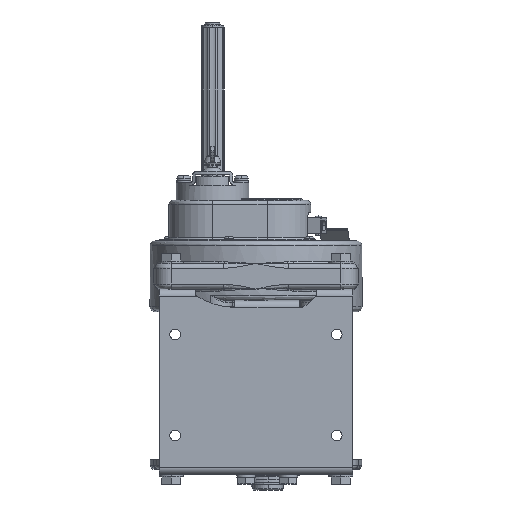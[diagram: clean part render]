
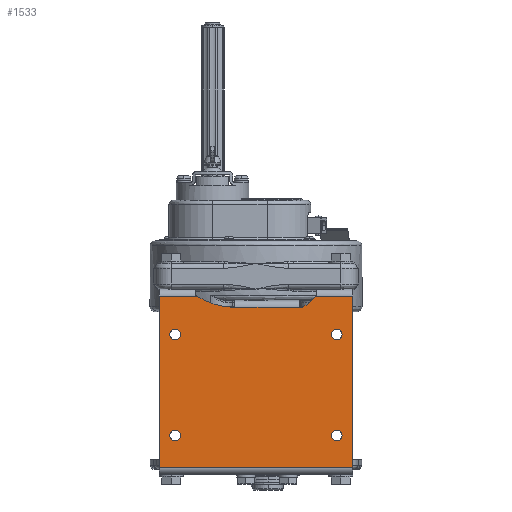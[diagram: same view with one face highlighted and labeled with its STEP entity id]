
A CAD part, front view. The second image highlights one B-rep face of the part: STEP entity #1533.
In plain terms, the highlighted planar face has unit normal (0, -1, 0).
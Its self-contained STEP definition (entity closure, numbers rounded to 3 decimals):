
#1533=ADVANCED_FACE('',(#16987,#16988,#16989,#16990,#16991),#16986,.T.);
#16986=PLANE('',#39127);
#16987=FACE_OUTER_BOUND('',#39128,.T.);
#16988=FACE_BOUND('',#39129,.T.);
#16989=FACE_BOUND('',#39130,.T.);
#16990=FACE_BOUND('',#39131,.T.);
#16991=FACE_BOUND('',#39132,.T.);
#39124=CARTESIAN_POINT('',(-597.56,-36.383,57.106));
#39125=DIRECTION('',(0.,-1.,0.));
#39126=DIRECTION('',(0.,0.,1.));
#39127=AXIS2_PLACEMENT_3D('',#39124,#39125,#39126);
#39128=EDGE_LOOP('',(#55721,#55722,#55723,#55724,#55725,#55726,#55727,#55728,#55729,#55730));
#39129=EDGE_LOOP('',(#55731,#55732));
#39130=EDGE_LOOP('',(#55733,#55734));
#39131=EDGE_LOOP('',(#55735,#55736));
#39132=EDGE_LOOP('',(#55737,#55738));
#55721=ORIENTED_EDGE('',*,*,#65366,.T.);
#55722=ORIENTED_EDGE('',*,*,#65360,.T.);
#55723=ORIENTED_EDGE('',*,*,#65374,.T.);
#55724=ORIENTED_EDGE('',*,*,#62024,.T.);
#55725=ORIENTED_EDGE('',*,*,#65373,.T.);
#55726=ORIENTED_EDGE('',*,*,#65370,.T.);
#55727=ORIENTED_EDGE('',*,*,#65619,.T.);
#55728=ORIENTED_EDGE('',*,*,#65601,.F.);
#55729=ORIENTED_EDGE('',*,*,#65618,.F.);
#55730=ORIENTED_EDGE('',*,*,#65597,.T.);
#55731=ORIENTED_EDGE('',*,*,#65620,.F.);
#55732=ORIENTED_EDGE('',*,*,#65621,.F.);
#55733=ORIENTED_EDGE('',*,*,#65622,.F.);
#55734=ORIENTED_EDGE('',*,*,#65623,.F.);
#55735=ORIENTED_EDGE('',*,*,#65624,.F.);
#55736=ORIENTED_EDGE('',*,*,#65625,.F.);
#55737=ORIENTED_EDGE('',*,*,#65626,.F.);
#55738=ORIENTED_EDGE('',*,*,#65627,.F.);
#62024=EDGE_CURVE('',#72231,#72273,#72280,.T.);
#65360=EDGE_CURVE('',#94600,#94593,#94601,.T.);
#65366=EDGE_CURVE('',#94640,#94600,#94641,.T.);
#65370=EDGE_CURVE('',#94668,#94661,#94669,.T.);
#65373=EDGE_CURVE('',#72273,#94668,#94687,.T.);
#65374=EDGE_CURVE('',#94593,#72231,#94693,.T.);
#65597=EDGE_CURVE('',#96163,#94640,#96164,.T.);
#65601=EDGE_CURVE('',#96182,#96189,#96190,.T.);
#65618=EDGE_CURVE('',#96163,#96182,#96301,.T.);
#65619=EDGE_CURVE('',#94661,#96189,#96307,.T.);
#65620=EDGE_CURVE('',#96313,#96314,#96315,.T.);
#65621=EDGE_CURVE('',#96314,#96313,#96321,.T.);
#65622=EDGE_CURVE('',#96327,#96328,#96329,.T.);
#65623=EDGE_CURVE('',#96328,#96327,#96335,.T.);
#65624=EDGE_CURVE('',#96341,#96342,#96343,.T.);
#65625=EDGE_CURVE('',#96342,#96341,#96349,.T.);
#65626=EDGE_CURVE('',#96355,#96356,#96357,.T.);
#65627=EDGE_CURVE('',#96356,#96355,#96363,.T.);
#72231=VERTEX_POINT('',#113768);
#72273=VERTEX_POINT('',#113807);
#72280=LINE('',#113824,#113825);
#94593=VERTEX_POINT('',#128979);
#94600=VERTEX_POINT('',#128983);
#94601=CIRCLE('',#128987,30.);
#94640=VERTEX_POINT('',#129011);
#94641=LINE('',#129012,#129013);
#94661=VERTEX_POINT('',#129024);
#94668=VERTEX_POINT('',#129029);
#94669=CIRCLE('',#129033,70.);
#94687=CIRCLE('',#129044,2.);
#94693=CIRCLE('',#129048,2.);
#96163=VERTEX_POINT('',#130059);
#96164=LINE('',#130060,#130061);
#96182=VERTEX_POINT('',#130070);
#96189=VERTEX_POINT('',#130075);
#96190=LINE('',#130076,#130077);
#96301=LINE('',#130141,#130142);
#96307=LINE('',#130144,#130145);
#96313=VERTEX_POINT('',#130147);
#96314=VERTEX_POINT('',#130148);
#96315=CIRCLE('',#130152,5.25);
#96321=CIRCLE('',#130156,5.25);
#96327=VERTEX_POINT('',#130157);
#96328=VERTEX_POINT('',#130158);
#96329=CIRCLE('',#130162,5.25);
#96335=CIRCLE('',#130166,5.25);
#96341=VERTEX_POINT('',#130167);
#96342=VERTEX_POINT('',#130168);
#96343=CIRCLE('',#130172,5.25);
#96349=CIRCLE('',#130176,5.25);
#96355=VERTEX_POINT('',#130177);
#96356=VERTEX_POINT('',#130178);
#96357=CIRCLE('',#130182,5.25);
#96363=CIRCLE('',#130186,5.25);
#113768=CARTESIAN_POINT('',(-658.56,-36.383,225.806));
#113807=CARTESIAN_POINT('',(-726.56,-36.383,225.806));
#113824=CARTESIAN_POINT('',(-658.56,-36.383,225.806));
#113825=VECTOR('',#113826,68.);
#113826=DIRECTION('',(-1.,0.,0.));
#128979=CARTESIAN_POINT('',(-657.794,-36.383,225.959));
#128983=CARTESIAN_POINT('',(-644.478,-36.383,236.806));
#128984=CARTESIAN_POINT('',(-669.29,-36.383,253.669));
#128985=DIRECTION('',(0.,1.,0.));
#128986=DIRECTION('',(0.,0.,-1.));
#128987=AXIS2_PLACEMENT_3D('',#128984,#128985,#128986);
#129011=CARTESIAN_POINT('',(-607.56,-36.383,236.806));
#129012=CARTESIAN_POINT('',(-607.56,-36.383,236.806));
#129013=VECTOR('',#129014,36.917);
#129014=DIRECTION('',(-1.,0.,0.));
#129024=CARTESIAN_POINT('',(-762.15,-36.383,236.806));
#129029=CARTESIAN_POINT('',(-726.623,-36.383,225.807));
#129030=CARTESIAN_POINT('',(-724.428,-36.383,295.773));
#129031=DIRECTION('',(0.,1.,0.));
#129032=DIRECTION('',(0.,0.,-1.));
#129033=AXIS2_PLACEMENT_3D('',#129030,#129031,#129032);
#129041=CARTESIAN_POINT('',(-726.56,-36.383,227.806));
#129042=DIRECTION('',(0.,1.,0.));
#129043=DIRECTION('',(0.,0.,-1.));
#129044=AXIS2_PLACEMENT_3D('',#129041,#129042,#129043);
#129045=CARTESIAN_POINT('',(-658.56,-36.383,227.806));
#129046=DIRECTION('',(0.,1.,0.));
#129047=DIRECTION('',(0.,0.,-1.));
#129048=AXIS2_PLACEMENT_3D('',#129045,#129046,#129047);
#130059=CARTESIAN_POINT('',(-607.56,-36.383,67.106));
#130060=CARTESIAN_POINT('',(-607.56,-36.383,67.106));
#130061=VECTOR('',#130062,169.7);
#130062=DIRECTION('',(0.,0.,1.));
#130070=CARTESIAN_POINT('',(-799.56,-36.383,67.106));
#130075=CARTESIAN_POINT('',(-799.56,-36.383,236.806));
#130076=CARTESIAN_POINT('',(-799.56,-36.383,67.106));
#130077=VECTOR('',#130078,169.7);
#130078=DIRECTION('',(0.,0.,1.));
#130141=CARTESIAN_POINT('',(-607.56,-36.383,67.106));
#130142=VECTOR('',#130143,192.);
#130143=DIRECTION('',(-1.,0.,0.));
#130144=CARTESIAN_POINT('',(-762.15,-36.383,236.806));
#130145=VECTOR('',#130146,37.41);
#130146=DIRECTION('',(-1.,0.,0.));
#130147=CARTESIAN_POINT('',(-623.56,-36.383,193.556));
#130148=CARTESIAN_POINT('',(-623.56,-36.383,204.056));
#130149=CARTESIAN_POINT('',(-623.56,-36.383,198.806));
#130150=DIRECTION('',(0.,-1.,0.));
#130151=DIRECTION('',(0.,0.,1.));
#130152=AXIS2_PLACEMENT_3D('',#130149,#130150,#130151);
#130153=CARTESIAN_POINT('',(-623.56,-36.383,198.806));
#130154=DIRECTION('',(0.,-1.,0.));
#130155=DIRECTION('',(0.,0.,1.));
#130156=AXIS2_PLACEMENT_3D('',#130153,#130154,#130155);
#130157=CARTESIAN_POINT('',(-783.56,-36.383,193.556));
#130158=CARTESIAN_POINT('',(-783.56,-36.383,204.056));
#130159=CARTESIAN_POINT('',(-783.56,-36.383,198.806));
#130160=DIRECTION('',(0.,-1.,0.));
#130161=DIRECTION('',(0.,0.,1.));
#130162=AXIS2_PLACEMENT_3D('',#130159,#130160,#130161);
#130163=CARTESIAN_POINT('',(-783.56,-36.383,198.806));
#130164=DIRECTION('',(0.,-1.,0.));
#130165=DIRECTION('',(0.,0.,1.));
#130166=AXIS2_PLACEMENT_3D('',#130163,#130164,#130165);
#130167=CARTESIAN_POINT('',(-783.56,-36.383,93.556));
#130168=CARTESIAN_POINT('',(-783.56,-36.383,104.056));
#130169=CARTESIAN_POINT('',(-783.56,-36.383,98.806));
#130170=DIRECTION('',(0.,-1.,0.));
#130171=DIRECTION('',(0.,0.,1.));
#130172=AXIS2_PLACEMENT_3D('',#130169,#130170,#130171);
#130173=CARTESIAN_POINT('',(-783.56,-36.383,98.806));
#130174=DIRECTION('',(0.,-1.,0.));
#130175=DIRECTION('',(0.,0.,1.));
#130176=AXIS2_PLACEMENT_3D('',#130173,#130174,#130175);
#130177=CARTESIAN_POINT('',(-623.56,-36.383,93.556));
#130178=CARTESIAN_POINT('',(-623.56,-36.383,104.056));
#130179=CARTESIAN_POINT('',(-623.56,-36.383,98.806));
#130180=DIRECTION('',(0.,-1.,0.));
#130181=DIRECTION('',(0.,0.,1.));
#130182=AXIS2_PLACEMENT_3D('',#130179,#130180,#130181);
#130183=CARTESIAN_POINT('',(-623.56,-36.383,98.806));
#130184=DIRECTION('',(0.,-1.,0.));
#130185=DIRECTION('',(0.,0.,1.));
#130186=AXIS2_PLACEMENT_3D('',#130183,#130184,#130185);
